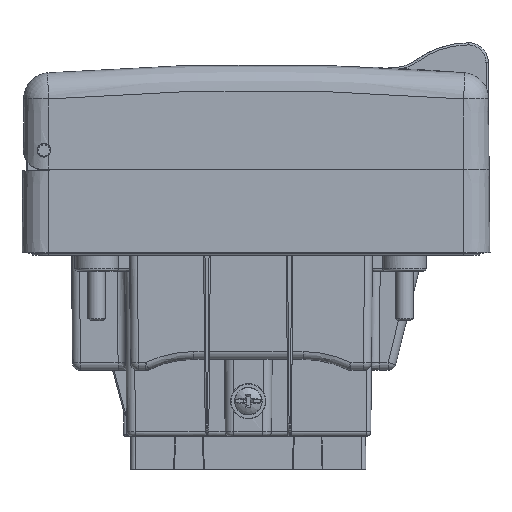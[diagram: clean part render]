
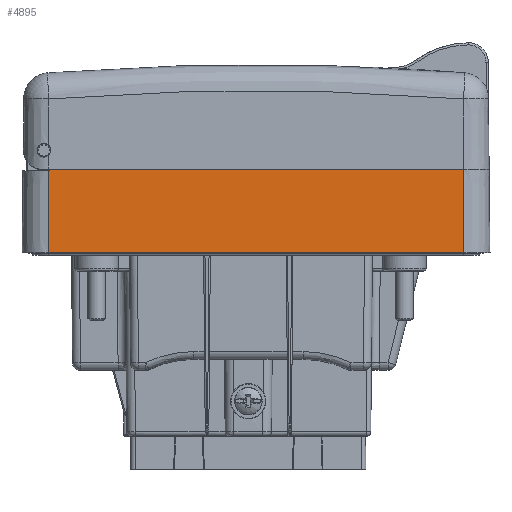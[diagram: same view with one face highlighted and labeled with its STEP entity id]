
A CAD part, front view. The second image highlights one B-rep face of the part: STEP entity #4895.
In plain terms, the highlighted planar face has unit normal (0, -1, 0.009).
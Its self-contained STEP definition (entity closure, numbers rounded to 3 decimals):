
#2093=FACE_OUTER_BOUND('',#13213,.T.);
#4895=ADVANCED_FACE('',(#2093),#7752,.T.);
#7752=PLANE('',#53305);
#11768=ELLIPSE('',#53303,1.,1.);
#11769=ELLIPSE('',#53304,5.,5.);
#13213=EDGE_LOOP('',(#17322,#17323,#17324,#17325,#17326,#17327));
#17322=ORIENTED_EDGE('',*,*,#37380,.T.);
#17323=ORIENTED_EDGE('',*,*,#36870,.T.);
#17324=ORIENTED_EDGE('',*,*,#37381,.F.);
#17325=ORIENTED_EDGE('',*,*,#37382,.T.);
#17326=ORIENTED_EDGE('',*,*,#37383,.F.);
#17327=ORIENTED_EDGE('',*,*,#36872,.F.);
#31938=VERTEX_POINT('',#71865);
#31939=VERTEX_POINT('',#71867);
#31940=VERTEX_POINT('',#71871);
#31941=VERTEX_POINT('',#71872);
#32279=VERTEX_POINT('',#75870);
#32280=VERTEX_POINT('',#75872);
#36870=EDGE_CURVE('',#31939,#31938,#44560,.T.);
#36872=EDGE_CURVE('',#31940,#31941,#44561,.T.);
#37380=EDGE_CURVE('',#31940,#31939,#44802,.T.);
#37381=EDGE_CURVE('',#32279,#31938,#44803,.T.);
#37382=EDGE_CURVE('',#32279,#32280,#11768,.T.);
#37383=EDGE_CURVE('',#31941,#32280,#11769,.T.);
#44560=LINE('',#71866,#48818);
#44561=LINE('',#71870,#48819);
#44802=LINE('',#75868,#49060);
#44803=LINE('',#75869,#49061);
#48818=VECTOR('',#57954,1.);
#48819=VECTOR('',#57959,1.);
#49060=VECTOR('',#58834,1.);
#49061=VECTOR('',#58835,1.);
#53303=AXIS2_PLACEMENT_3D('',#75871,#58836,#58837);
#53304=AXIS2_PLACEMENT_3D('',#75873,#58838,#58839);
#53305=AXIS2_PLACEMENT_3D('',#75874,#58840,#58841);
#57954=DIRECTION('',(0.,0.009,1.));
#57959=DIRECTION('',(0.,0.009,1.));
#58834=DIRECTION('',(1.,0.,0.));
#58835=DIRECTION('',(1.,0.,0.));
#58836=DIRECTION('',(0.,-1.,0.009));
#58837=DIRECTION('',(0.,-0.009,-1.));
#58838=DIRECTION('',(0.,-1.,0.009));
#58839=DIRECTION('',(0.,-0.009,-1.));
#58840=DIRECTION('',(0.,-1.,0.009));
#58841=DIRECTION('',(-1.,0.,0.));
#71865=CARTESIAN_POINT('',(-6.,-41.834,-220.));
#71866=CARTESIAN_POINT('',(-6.,-42.,-238.949));
#71867=CARTESIAN_POINT('',(-6.,-42.,-239.));
#71870=CARTESIAN_POINT('',(-100.5,-42.,-238.949));
#71871=CARTESIAN_POINT('',(-100.5,-42.,-239.));
#71872=CARTESIAN_POINT('',(-100.5,-41.836,-220.24));
#75868=CARTESIAN_POINT('',(-53.25,-42.,-239.));
#75869=CARTESIAN_POINT('',(-97.76,-41.834,-220.));
#75870=CARTESIAN_POINT('',(-99.519,-41.834,-220.));
#75871=CARTESIAN_POINT('',(-99.519,-41.843,-221.));
#75872=CARTESIAN_POINT('',(-99.855,-41.835,-220.058));
#75873=CARTESIAN_POINT('',(-101.532,-41.794,-215.348));
#75874=CARTESIAN_POINT('',(-53.25,-41.917,-229.499));
